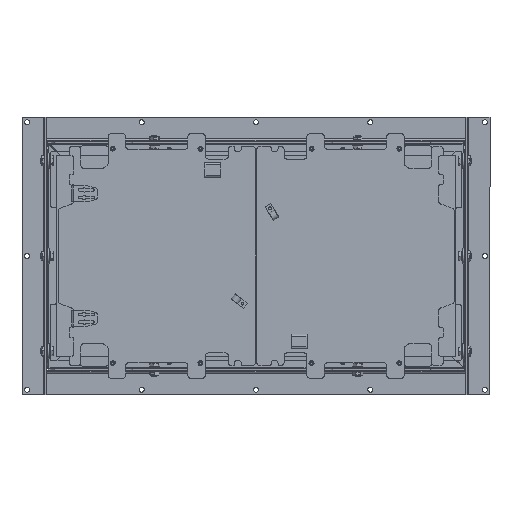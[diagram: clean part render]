
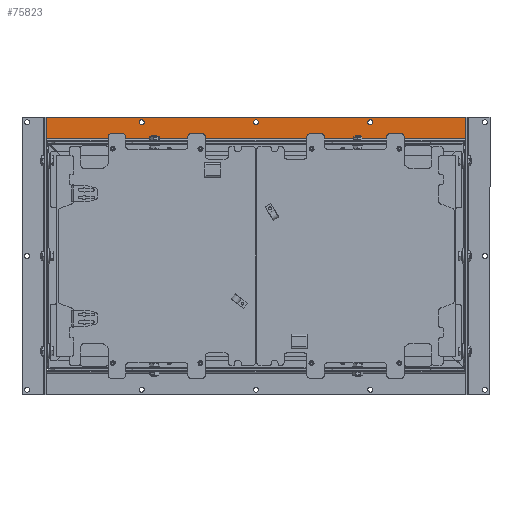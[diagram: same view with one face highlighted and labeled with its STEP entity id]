
A CAD part, front view. The second image highlights one B-rep face of the part: STEP entity #75823.
In plain terms, the highlighted planar face has unit normal (0, -1, 0).
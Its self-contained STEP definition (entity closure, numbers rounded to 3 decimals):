
#195 = VERTEX_POINT ( 'NONE', #28602 ) ;
#612 = VECTOR ( 'NONE', #102995, 1000. ) ;
#2306 = CARTESIAN_POINT ( 'NONE',  ( 0., 1., 210.5 ) ) ;
#3110 = DIRECTION ( 'NONE',  ( 0., 1., 0. ) ) ;
#3909 = ORIENTED_EDGE ( 'NONE', *, *, #7708, .F. ) ;
#6641 = VECTOR ( 'NONE', #82902, 1000. ) ;
#7708 = EDGE_CURVE ( 'NONE', #104805, #31269, #75597, .T. ) ;
#8363 = CARTESIAN_POINT ( 'NONE',  ( 330.5, 1., 184.5 ) ) ;
#9435 = EDGE_LOOP ( 'NONE', ( #10708, #48249 ) ) ;
#10708 = ORIENTED_EDGE ( 'NONE', *, *, #90778, .T. ) ;
#11058 = AXIS2_PLACEMENT_3D ( 'NONE', #2306, #3110, #76000 ) ;
#12623 = CIRCLE ( 'NONE', #73386, 4. ) ;
#13193 = ORIENTED_EDGE ( 'NONE', *, *, #103064, .F. ) ;
#13633 = PLANE ( 'NONE',  #43755 ) ;
#14415 = CARTESIAN_POINT ( 'NONE',  ( -330.5, 1., 218.5 ) ) ;
#18999 = DIRECTION ( 'NONE',  ( 0., 1., 0. ) ) ;
#19237 = CARTESIAN_POINT ( 'NONE',  ( 330.5, 1., 184.5 ) ) ;
#21090 = FACE_BOUND ( 'NONE', #53967, .T. ) ;
#21725 = EDGE_CURVE ( 'NONE', #66635, #195, #22477, .T. ) ;
#22071 = CARTESIAN_POINT ( 'NONE',  ( 180., 1., 210.5 ) ) ;
#22477 = CIRCLE ( 'NONE', #33584, 4. ) ;
#23949 = FACE_OUTER_BOUND ( 'NONE', #71510, .T. ) ;
#26580 = CARTESIAN_POINT ( 'NONE',  ( 0., 1., 210.5 ) ) ;
#27368 = DIRECTION ( 'NONE',  ( 0., 1., 0. ) ) ;
#27502 = CARTESIAN_POINT ( 'NONE',  ( 180., 1., 206.5 ) ) ;
#28555 = VECTOR ( 'NONE', #29102, 1000. ) ;
#28602 = CARTESIAN_POINT ( 'NONE',  ( -180., 1., 214.5 ) ) ;
#29102 = DIRECTION ( 'NONE',  ( 0., 0., -1. ) ) ;
#30857 = CARTESIAN_POINT ( 'NONE',  ( -330.5, 1., 218.5 ) ) ;
#31269 = VERTEX_POINT ( 'NONE', #78273 ) ;
#32962 = AXIS2_PLACEMENT_3D ( 'NONE', #26580, #27368, #63618 ) ;
#33584 = AXIS2_PLACEMENT_3D ( 'NONE', #46359, #18999, #73331 ) ;
#34771 = EDGE_CURVE ( 'NONE', #195, #66635, #106636, .T. ) ;
#34875 = VERTEX_POINT ( 'NONE', #36850 ) ;
#35836 = CARTESIAN_POINT ( 'NONE',  ( 330.5, 1., 218.5 ) ) ;
#36687 = VERTEX_POINT ( 'NONE', #27502 ) ;
#36850 = CARTESIAN_POINT ( 'NONE',  ( 0., 1., 214.5 ) ) ;
#41129 = VECTOR ( 'NONE', #104544, 1000. ) ;
#43755 = AXIS2_PLACEMENT_3D ( 'NONE', #14415, #78850, #60740 ) ;
#45487 = CARTESIAN_POINT ( 'NONE',  ( -330.5, 1., 218.5 ) ) ;
#46065 = DIRECTION ( 'NONE',  ( 0., 1., 0. ) ) ;
#46359 = CARTESIAN_POINT ( 'NONE',  ( -180., 1., 210.5 ) ) ;
#48144 = VERTEX_POINT ( 'NONE', #96753 ) ;
#48249 = ORIENTED_EDGE ( 'NONE', *, *, #57869, .T. ) ;
#49577 = EDGE_CURVE ( 'NONE', #70769, #72836, #77496, .T. ) ;
#50479 = CIRCLE ( 'NONE', #11058, 4. ) ;
#50797 = ORIENTED_EDGE ( 'NONE', *, *, #56823, .T. ) ;
#51272 = CARTESIAN_POINT ( 'NONE',  ( 180., 1., 210.5 ) ) ;
#53070 = VERTEX_POINT ( 'NONE', #93998 ) ;
#53967 = EDGE_LOOP ( 'NONE', ( #117946, #78108 ) ) ;
#56823 = EDGE_CURVE ( 'NONE', #53070, #36687, #90820, .T. ) ;
#57869 = EDGE_CURVE ( 'NONE', #48144, #34875, #60021, .T. ) ;
#58707 = DIRECTION ( 'NONE',  ( 0., 1., 0. ) ) ;
#58803 = EDGE_LOOP ( 'NONE', ( #50797, #60799 ) ) ;
#60021 = CIRCLE ( 'NONE', #32962, 4. ) ;
#60740 = DIRECTION ( 'NONE',  ( 0., 0., -1. ) ) ;
#60799 = ORIENTED_EDGE ( 'NONE', *, *, #119478, .T. ) ;
#63618 = DIRECTION ( 'NONE',  ( 0., 0., 1. ) ) ;
#66635 = VERTEX_POINT ( 'NONE', #67794 ) ;
#67794 = CARTESIAN_POINT ( 'NONE',  ( -180., 1., 206.5 ) ) ;
#68554 = FACE_BOUND ( 'NONE', #9435, .T. ) ;
#70692 = EDGE_CURVE ( 'NONE', #31269, #70769, #110508, .T. ) ;
#70769 = VERTEX_POINT ( 'NONE', #35836 ) ;
#71510 = EDGE_LOOP ( 'NONE', ( #3909, #13193, #104450, #86851 ) ) ;
#72836 = VERTEX_POINT ( 'NONE', #8363 ) ;
#73331 = DIRECTION ( 'NONE',  ( 0., 0., 1. ) ) ;
#73386 = AXIS2_PLACEMENT_3D ( 'NONE', #51272, #77419, #78212 ) ;
#74235 = CARTESIAN_POINT ( 'NONE',  ( -330.5, 1., 184.5 ) ) ;
#75597 = LINE ( 'NONE', #30857, #41129 ) ;
#75823 = ADVANCED_FACE ( 'NONE', ( #21090, #119145, #68554, #23949 ), #13633, .T. ) ;
#76000 = DIRECTION ( 'NONE',  ( 0., 0., 1. ) ) ;
#77419 = DIRECTION ( 'NONE',  ( 0., 1., 0. ) ) ;
#77496 = LINE ( 'NONE', #102393, #28555 ) ;
#77537 = AXIS2_PLACEMENT_3D ( 'NONE', #22071, #58707, #105015 ) ;
#78108 = ORIENTED_EDGE ( 'NONE', *, *, #21725, .T. ) ;
#78212 = DIRECTION ( 'NONE',  ( 0., 0., 1. ) ) ;
#78273 = CARTESIAN_POINT ( 'NONE',  ( -330.5, 1., 218.5 ) ) ;
#78850 = DIRECTION ( 'NONE',  ( 0., -1., 0. ) ) ;
#82902 = DIRECTION ( 'NONE',  ( 1., 0., 0. ) ) ;
#86851 = ORIENTED_EDGE ( 'NONE', *, *, #70692, .F. ) ;
#88453 = LINE ( 'NONE', #19237, #612 ) ;
#90778 = EDGE_CURVE ( 'NONE', #34875, #48144, #50479, .T. ) ;
#90820 = CIRCLE ( 'NONE', #77537, 4. ) ;
#93998 = CARTESIAN_POINT ( 'NONE',  ( 180., 1., 214.5 ) ) ;
#96753 = CARTESIAN_POINT ( 'NONE',  ( 0., 1., 206.5 ) ) ;
#102393 = CARTESIAN_POINT ( 'NONE',  ( 330.5, 1., 218.5 ) ) ;
#102995 = DIRECTION ( 'NONE',  ( -1., 0., 0. ) ) ;
#103064 = EDGE_CURVE ( 'NONE', #72836, #104805, #88453, .T. ) ;
#104450 = ORIENTED_EDGE ( 'NONE', *, *, #49577, .F. ) ;
#104544 = DIRECTION ( 'NONE',  ( 0., 0., 1. ) ) ;
#104805 = VERTEX_POINT ( 'NONE', #74235 ) ;
#105015 = DIRECTION ( 'NONE',  ( 0., 0., 1. ) ) ;
#106636 = CIRCLE ( 'NONE', #118261, 4. ) ;
#110508 = LINE ( 'NONE', #45487, #6641 ) ;
#110560 = DIRECTION ( 'NONE',  ( 0., 0., 1. ) ) ;
#110961 = CARTESIAN_POINT ( 'NONE',  ( -180., 1., 210.5 ) ) ;
#117946 = ORIENTED_EDGE ( 'NONE', *, *, #34771, .T. ) ;
#118261 = AXIS2_PLACEMENT_3D ( 'NONE', #110961, #46065, #110560 ) ;
#119145 = FACE_BOUND ( 'NONE', #58803, .T. ) ;
#119478 = EDGE_CURVE ( 'NONE', #36687, #53070, #12623, .T. ) ;
